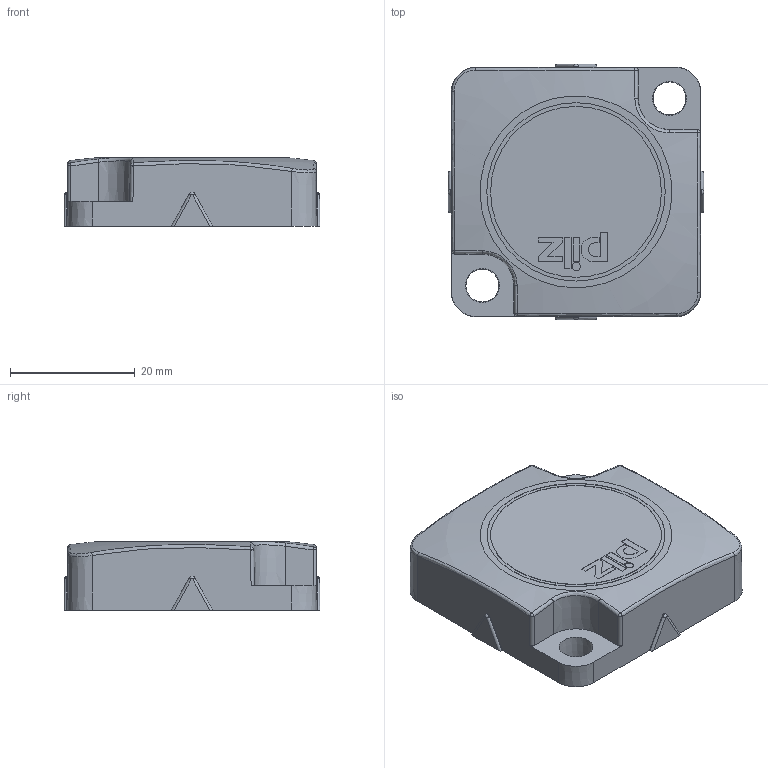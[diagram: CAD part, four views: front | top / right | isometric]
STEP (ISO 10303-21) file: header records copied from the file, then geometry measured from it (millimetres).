
FILE_DESCRIPTION((''),'2;1');
FILE_NAME('E:\Vault Daten\Projektordner\Sensoren\PSEN cs\Konstruktionszeichnungen\Kundendaten\H302846-A_A_40x40x11mm.stp','2011-09-21T08:34:08',('pschmucki'),(''),'Autodesk Inventor 2010','Autodesk Inventor 2010','');
FILE_SCHEMA(('CONFIG_CONTROL_DESIGN'));
Length unit declared in the file: millimetre
Products named in the file (1): H302846_PSENcs_Betätiger_Konturvereinfachung
Bounding box: 41 x 41 x 11 mm (x, y, z)
Volume: 15649.5 mm3; surface area: 4777.9 mm2
Topology: 1 solids, 1 shells, 107 faces, 266 edges, 168 vertices
Faces by surface type: plane 54, cylinder 21, bspline 20, cone 8, sphere 4
Full cylindrical faces by diameter (mm): 1.334 x1, 27.4 x1, 28.6 x1
Entity records: 3606 total; most frequent: CARTESIAN_POINT 1083, ORIENTED_EDGE 518, DIRECTION 486, EDGE_CURVE 259, VERTEX_POINT 167, AXIS2_PLACEMENT_3D 163, VECTOR 160, LINE 160
